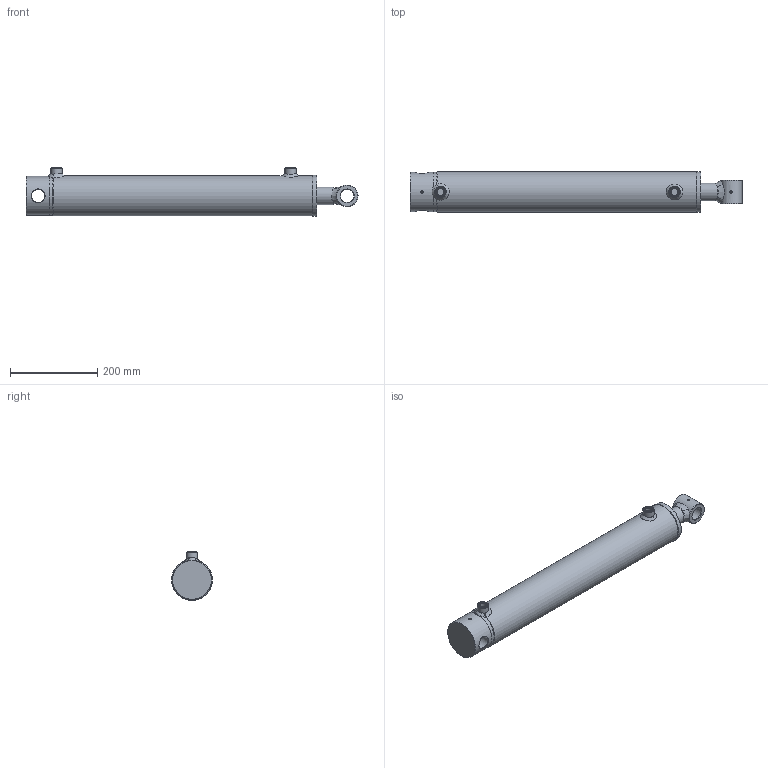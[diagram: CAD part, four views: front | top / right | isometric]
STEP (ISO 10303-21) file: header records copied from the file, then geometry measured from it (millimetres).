
FILE_DESCRIPTION( ( 'Unknown' ), '1' );
FILE_NAME( 'E:/LIBRERIA_3d/CILINDRI/HFR2S/HFR2S0800400500.stp', 'Unknown', ( 'Unknown' ), ( 'Unknown' ), 'PSStep 17.0.49', 'Unknown', ' ' );
FILE_SCHEMA( ( 'AUTOMOTIVE_DESIGN { 1 0 10303 214 1 1 1 1 }' ) );
Length unit declared in the file: millimetre
Products named in the file (23): CTBF080M27; CG09508040; STF2R0800600500-oa5; Saldatura d'angolo 1-oa3; MAT_PRIMA_TUBO_FT09208000-oa4; CBS0600000; Assem1; CFHR080030060; CBF1030050055; APG0600000; Saldatura d'angolo 1-oa0; Saldatura con preparazione 1-oa1; Saldatura d'angolo 2-oa2; SBF2R400800500; AVG3006080
Assembly tree (16 placements, depth 3):
  Saldatura d'angolo 1-oa3
  Saldatura d'angolo 1-oa3
  Assem1
    CFHR080030060
    CBS0600000
    CBF1030050055
    APG0600000  x2
    Saldatura con preparazione 1-oa1
    Saldatura con preparazione 1-oa1
    SBF2R400800500
    AVG3006080
    CG09508040
      CG09508040
    CTBF080M27
      CTBF080M27
    STF2R0800600500-oa5
      MAT_PRIMA_TUBO_FT09208000-oa4
      CBS0600000
  Saldatura d'angolo 1-oa0
  Saldatura d'angolo 1-oa0
Bounding box: 763 x 94 x 112 mm (x, y, z)
Volume: 2534764.9 mm3; surface area: 560131.9 mm2
Topology: 21 solids, 21 shells, 267 faces, 547 edges, 334 vertices
Faces by surface type: plane 68, cylinder 61, bspline 56, torus 42, cone 40
Full cylindrical faces by diameter (mm): 5.5 x2, 6 x3, 7 x2, 8 x2, 14.95 x2, 16 x3, 16.6 x2, 22 x2, 25 x1, 26 x2, 27 x1, 28 x3, 30.25 x2, 34.2 x1, 40 x5, 43 x3, 48.6 x1, 50 x2, 65 x1, 75 x1, 76 x2, 78.5 x2, 79.9 x1, 80 x1, 80.3 x1, 80.5 x1, 80.6 x1, 81 x1, 82 x3, 82.835 x1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
Entity records: 14471 total; most frequent: CARTESIAN_POINT 8091, DIRECTION 794, ORIENTED_EDGE 656, EDGE_LOOP 436, AXIS2_PLACEMENT_3D 388, FACE_OUTER_BOUND 354, EDGE_CURVE 328, VERTEX_POINT 272
